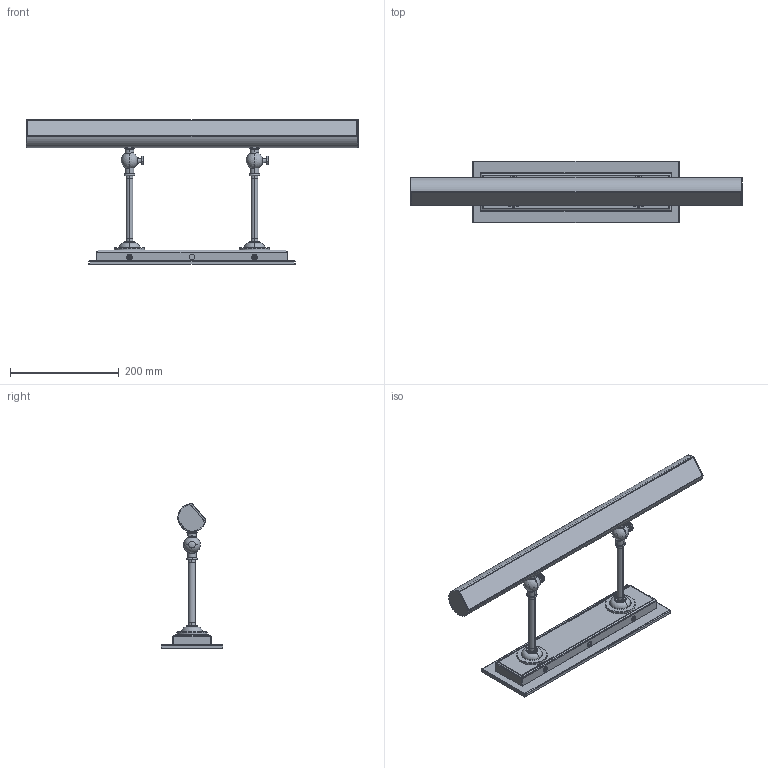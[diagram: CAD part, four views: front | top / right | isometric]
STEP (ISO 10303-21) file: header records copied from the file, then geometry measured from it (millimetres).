
FILE_DESCRIPTION((''),'2;1');
FILE_NAME('PIC124A-E0_ASM','2024-12-18T',('Hugo.Qiu'),(''),'PRO/ENGINEER BY PARAMETRIC TECHNOLOGY CORPORATION, 2009360','PRO/ENGINEER BY PARAMETRIC TECHNOLOGY CORPORATION, 2009360','');
FILE_SCHEMA(('AUTOMOTIVE_DESIGN_CC2 { 1 2 10303 214 -1 1 5 2 }'));
Length unit declared in the file: millimetre
Products named in the file (17): PIC124A-01; PIC118A-02; PIC118A-07; PIC1-03; PIC1-04; PIC118A-06; PIC118A-05; PIC1-11; PIC118A-E2_ASM; PIC124A-08; PIC18A-09; PIC124A-10; 24IN-3000K; PD50748-43; PIC124A-13; PIC124A-15; PIC124A-E0_ASM
Assembly tree (21 placements, depth 3):
  PIC124A-E0_ASM
    PIC124A-01
    PIC118A-02  x2
    PIC118A-07  x2
    PIC118A-E2_ASM  x2
      PIC1-03
      PIC1-04
      PIC118A-06
      PIC118A-05
      PIC1-11
    PIC124A-08
    PIC18A-09  x2
    PIC124A-10
    24IN-3000K
    PD50748-43  x2
    PIC124A-13
    PIC124A-15
Bounding box: 611 x 114 x 266.4 mm (x, y, z)
Volume: 390858.6 mm3; surface area: 532223.8 mm2
Topology: 24 solids, 40 shells, 1582 faces, 4022 edges, 2588 vertices
Faces by surface type: plane 879, cylinder 547, torus 80, cone 52, bspline 12, sphere 12
Entity records: 44009 total; most frequent: CARTESIAN_POINT 7028, DIRECTION 6188, ORIENTED_EDGE 5886, EDGE_CURVE 2959, PRESENTATION_STYLE_ASSIGNMENT 2458, STYLED_ITEM 2458, CURVE_STYLE 2441, VECTOR 2086
